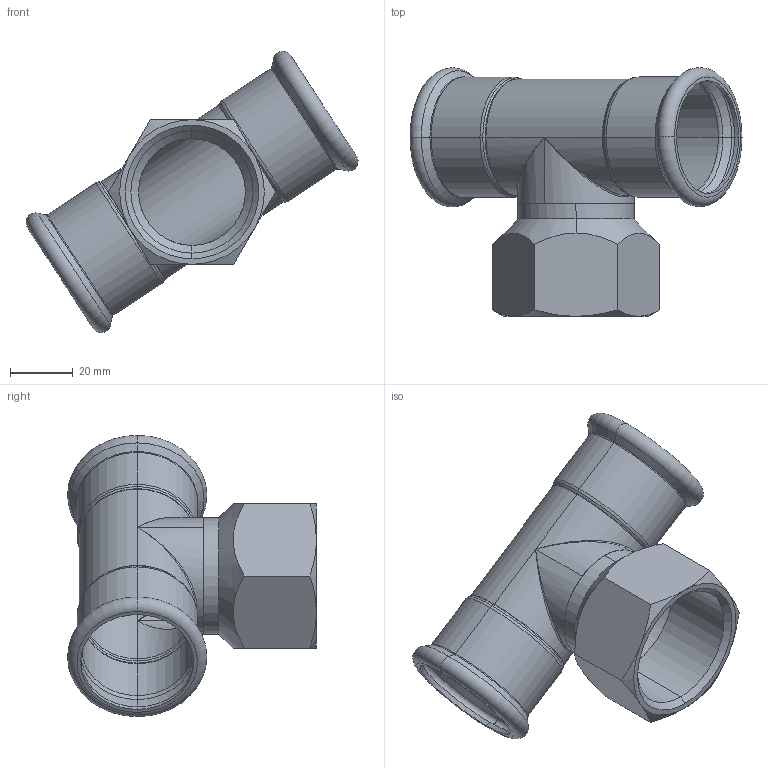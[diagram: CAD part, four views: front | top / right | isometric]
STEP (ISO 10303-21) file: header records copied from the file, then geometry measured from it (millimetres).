
FILE_DESCRIPTION (( 'STEP AP203' ), '1' );
FILE_NAME ('GDA5263.STEP', '2019-01-14T01:10:26', ( '' ), ( '' ), 'SwSTEP 2.0', 'SolidWorks 2015', '' );
FILE_SCHEMA (( 'CONFIG_CONTROL_DESIGN' ));
Length unit declared in the file: millimetre
Products named in the file (3): GDA5263; T(R)-¢ñ-35¡Á35''; ITC-I-03-35×1?
Assembly tree (2 placements, depth 2):
  GDA5263
    ITC-I-03-35×1?
    T(R)-¢ñ-35¡Á35''
Bounding box: 105.63 x 79.15 x 89.48 mm (x, y, z)
Volume: 37622.1 mm3; surface area: 35285.9 mm2
Topology: 2 solids, 2 shells, 104 faces, 219 edges, 114 vertices
Faces by surface type: torus 32, cone 28, cylinder 28, plane 13, bspline 3
Entity records: 3437 total; most frequent: CARTESIAN_POINT 936, DIRECTION 526, ORIENTED_EDGE 426, AXIS2_PLACEMENT_3D 234, EDGE_CURVE 213, CIRCLE 128, VERTEX_POINT 114, EDGE_LOOP 111
